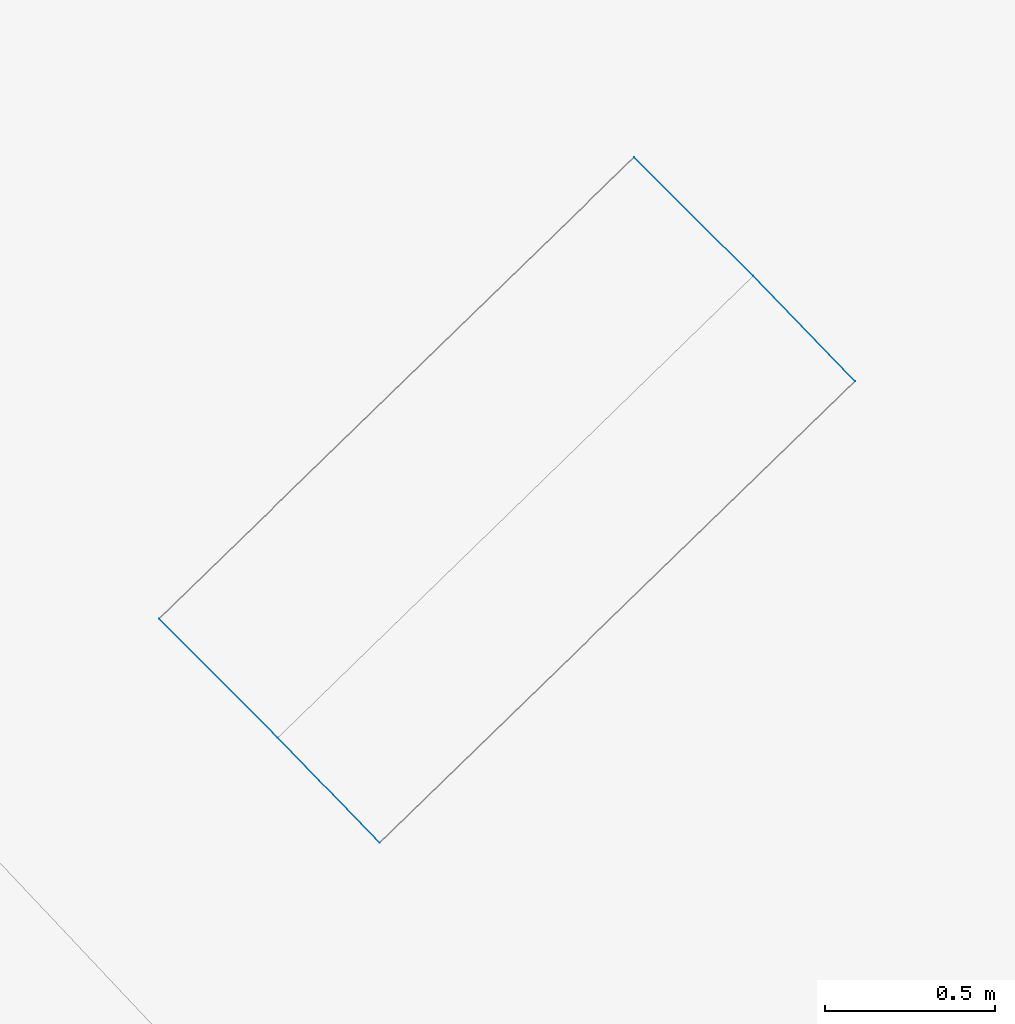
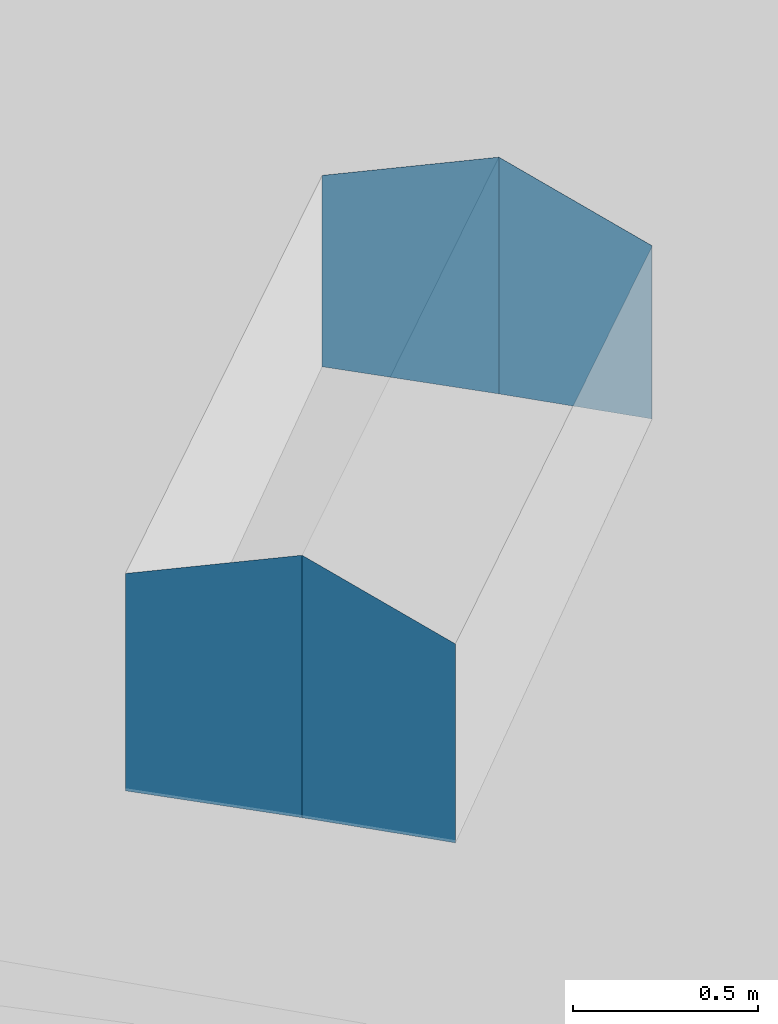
# Not in any storey, part 108 of 136: 4 walls.
"""IFC2X3 building model written with IfcOpenShell, lengths in metres."""

from ifc_helpers import new_model, entity, si_unit, converted_unit, origin, place, context, subcontext, project, spatial, face_set, surface_model, element, save


model = new_model("IFC2X3")

# Units and contexts
model_context = context("Model", 3, precision=1e-05, world=origin())
body_context = subcontext(model_context, "Body", "Model", "MODEL_VIEW")
ifc_project = project(units=[converted_unit("PLANEANGLEUNIT", "DEGREE", entity("IfcRatioMeasure", 0.0174532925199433), si_unit("PLANEANGLEUNIT", "RADIAN"), dimensions=[0, 0, 0, 0, 0, 0, 0]), si_unit("AREAUNIT", "SQUARE_METRE"), si_unit("LENGTHUNIT", "METRE")], contexts=[model_context])

# Site, building
site_placement = place(None, origin())
site = spatial("IfcSite", under=ifc_project, at=site_placement, Name="_site", CompositionType="ELEMENT")
building_placement = place(site_placement, origin())
building = spatial("IfcBuilding", under=site, at=building_placement, Name="_building", CompositionType="ELEMENT")

# Walls
wall_1_placement = place(building_placement, origin())
element("IfcWall", 1, at=wall_1_placement, inside=building, Name="Wall", context=body_context, shape_type="SurfaceModel", body=[
    surface_model("IfcFaceBasedSurfaceModel", [(44.73, 93.59, 51.54), (45.08, 93.24, 51.69), (45.08, 93.24, 50.908), (44.73, 93.59, 50.908)], [face_set([[[0, 1, 2, 3]]])]),
])
wall_2_placement = place(building_placement, origin())
element("IfcWall", 2, at=wall_2_placement, inside=building, Name="Wall", context=body_context, shape_type="SurfaceModel", body=[
    surface_model("IfcFaceBasedSurfaceModel", [(43.68, 91.88, 51.69), (43.33, 92.23, 51.54), (43.33, 92.23, 50.822), (43.68, 91.88, 50.823)], [face_set([[[0, 1, 2, 3]]])]),
])
wall_3_placement = place(building_placement, origin())
element("IfcWall", 3, at=wall_3_placement, inside=building, Name="Wall", context=body_context, shape_type="SurfaceModel", body=[
    surface_model("IfcFaceBasedSurfaceModel", [(43.98, 91.57, 51.48), (43.68, 91.88, 51.69), (43.68, 91.88, 50.823), (43.98, 91.57, 50.823)], [face_set([[[0, 1, 2, 3]]])]),
])
wall_4_placement = place(building_placement, origin())
element("IfcWall", 4, at=wall_4_placement, inside=building, Name="Wall", context=body_context, shape_type="SurfaceModel", body=[
    surface_model("IfcFaceBasedSurfaceModel", [(45.08, 93.24, 51.69), (45.38, 92.93, 51.48), (45.38, 92.93, 50.908), (45.08, 93.24, 50.908)], [face_set([[[0, 1, 2, 3]]])]),
])

save(model, "model.ifc")
